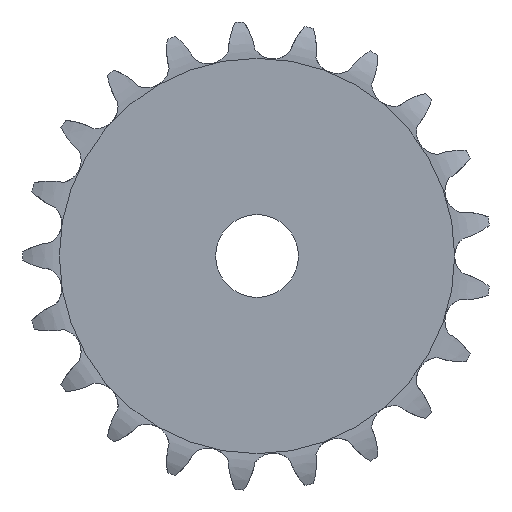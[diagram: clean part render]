
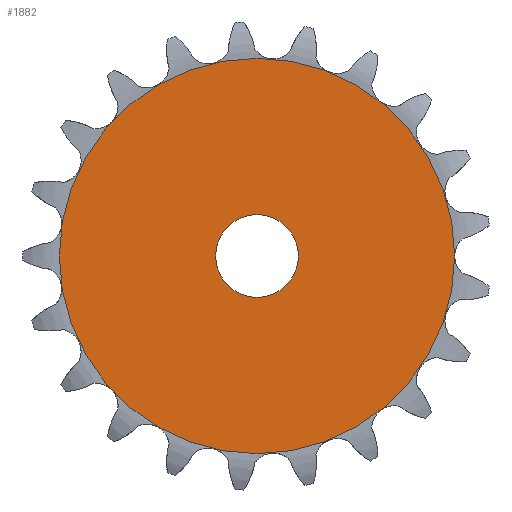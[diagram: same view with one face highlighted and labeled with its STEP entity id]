
A CAD part, left-side view. The second image highlights one B-rep face of the part: STEP entity #1882.
In plain terms, the highlighted planar face has unit normal (-1, 0, 0).
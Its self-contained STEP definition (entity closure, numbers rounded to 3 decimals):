
#15=FACE_BOUND('',#325,.T.);
#20=PLANE('',#2044);
#44=CIRCLE('',#1966,28.675);
#45=CIRCLE('',#1967,28.675);
#71=CIRCLE('',#2045,6.);
#72=CIRCLE('',#2046,6.);
#230=FACE_OUTER_BOUND('',#324,.T.);
#324=EDGE_LOOP('',(#1565,#1566));
#325=EDGE_LOOP('',(#1567,#1568));
#785=VERTEX_POINT('',#3460);
#786=VERTEX_POINT('',#3462);
#872=VERTEX_POINT('',#4333);
#873=VERTEX_POINT('',#4334);
#980=EDGE_CURVE('',#785,#786,#44,.T.);
#981=EDGE_CURVE('',#786,#785,#45,.T.);
#1145=EDGE_CURVE('',#872,#873,#71,.T.);
#1146=EDGE_CURVE('',#873,#872,#72,.T.);
#1565=ORIENTED_EDGE('',*,*,#981,.F.);
#1566=ORIENTED_EDGE('',*,*,#980,.F.);
#1567=ORIENTED_EDGE('',*,*,#1145,.T.);
#1568=ORIENTED_EDGE('',*,*,#1146,.T.);
#1882=ADVANCED_FACE('',(#230,#15),#20,.F.);
#1966=AXIS2_PLACEMENT_3D('',#3463,#2148,#2149);
#1967=AXIS2_PLACEMENT_3D('',#3464,#2150,#2151);
#2044=AXIS2_PLACEMENT_3D('',#4332,#2378,#2379);
#2045=AXIS2_PLACEMENT_3D('',#4335,#2380,#2381);
#2046=AXIS2_PLACEMENT_3D('',#4336,#2382,#2383);
#2148=DIRECTION('center_axis',(1.,0.,0.));
#2149=DIRECTION('ref_axis',(0.,0.,-1.));
#2150=DIRECTION('center_axis',(1.,0.,0.));
#2151=DIRECTION('ref_axis',(0.,0.,-1.));
#2378=DIRECTION('center_axis',(1.,0.,0.));
#2379=DIRECTION('ref_axis',(0.,0.,-1.));
#2380=DIRECTION('center_axis',(1.,0.,0.));
#2381=DIRECTION('ref_axis',(0.,0.,-1.));
#2382=DIRECTION('center_axis',(1.,0.,0.));
#2383=DIRECTION('ref_axis',(0.,0.,-1.));
#3460=CARTESIAN_POINT('',(0.,0.,28.675));
#3462=CARTESIAN_POINT('',(0.,0.,-28.675));
#3463=CARTESIAN_POINT('Origin',(0.,0.,0.));
#3464=CARTESIAN_POINT('Origin',(0.,0.,0.));
#4332=CARTESIAN_POINT('Origin',(0.,0.,0.));
#4333=CARTESIAN_POINT('',(0.,0.,-6.));
#4334=CARTESIAN_POINT('',(0.,0.,6.));
#4335=CARTESIAN_POINT('Origin',(0.,0.,0.));
#4336=CARTESIAN_POINT('Origin',(0.,0.,0.));
